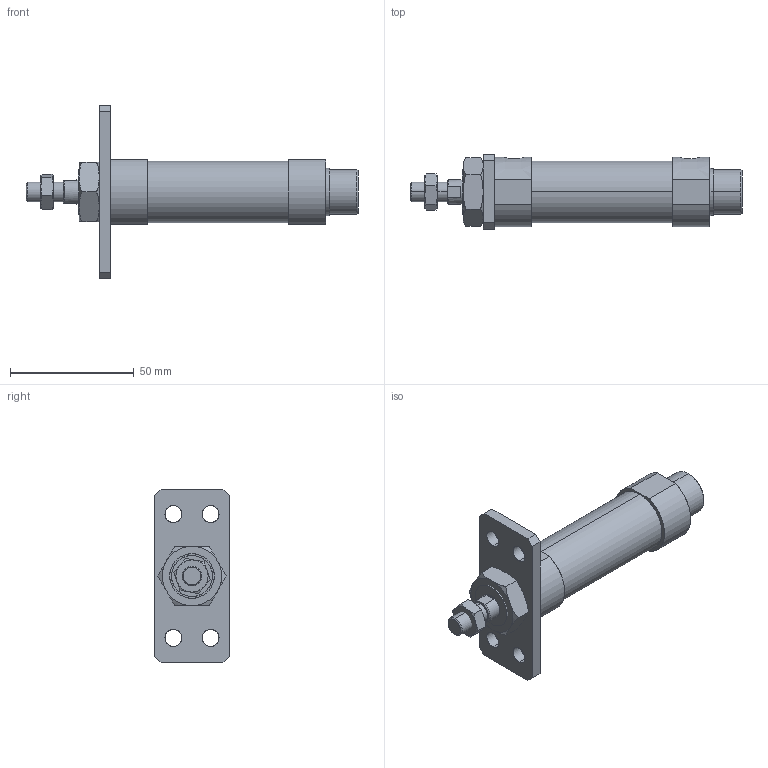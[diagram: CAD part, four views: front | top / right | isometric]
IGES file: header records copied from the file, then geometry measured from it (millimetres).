
Start section: SolidWorks IGES file using analytic representation for surfaces
Global section: file name: C:\Users\Toshiba\Desktop\J#2-20-25-A.IGS; native system: SolidWorks 2014; preprocessor: SolidWorks 2014; author: Toshiba; date: 160308.145345; units: millimetre
Bounding box: 134 x 30 x 70 mm (x, y, z)
Surface area: 18249.5 mm2 (no closed solid volume)
Topology: 0 solids, 0 shells, 112 faces, 2028 edges, 2028 vertices
Faces by surface type: bspline 70, revolution 42
